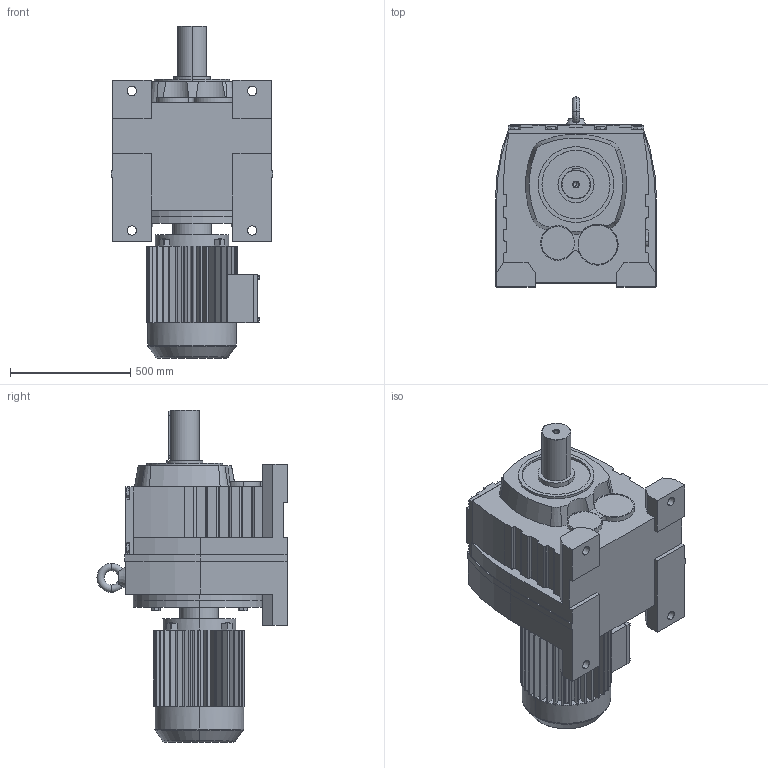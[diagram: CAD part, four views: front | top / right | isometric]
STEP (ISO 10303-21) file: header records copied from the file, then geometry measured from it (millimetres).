
FILE_DESCRIPTION(('Open CASCADE Model'),'2;1');
FILE_NAME('Open CASCADE Shape Model','2021-06-23T13:15:38',('Author'),( 'Open CASCADE'),'Open CASCADE STEP processor 6.3','Open CASCADE 6.3' ,'Unknown');
FILE_SCHEMA(('AUTOMOTIVE_DESIGN_CC2 { 1 2 10303 214 -1 1 5 4 }'));
Length unit declared in the file: millimetre
Products named in the file (3): 1_R167-Y180M; R37‵167_167.step; 萇儂_550_Y180M.step
Assembly tree (2 placements, depth 2):
  1_R167-Y180M
    R37‵167_167.step
    萇儂_550_Y180M.step
Bounding box: 670 x 790 x 1380 mm (x, y, z)
Volume: 268521226 mm3; surface area: 4761306.1 mm2
Topology: 2 solids, 2 shells, 735 faces, 1950 edges, 1261 vertices
Faces by surface type: plane 520, cylinder 185, cone 20, torus 10
Entity records: 51231 total; most frequent: CARTESIAN_POINT 14021, DIRECTION 6488, ORIENTED_EDGE 3896, PCURVE 3896, DEFINITIONAL_REPRESENTATION 3896, LINE 3635, VECTOR 3635, EDGE_CURVE 1948
